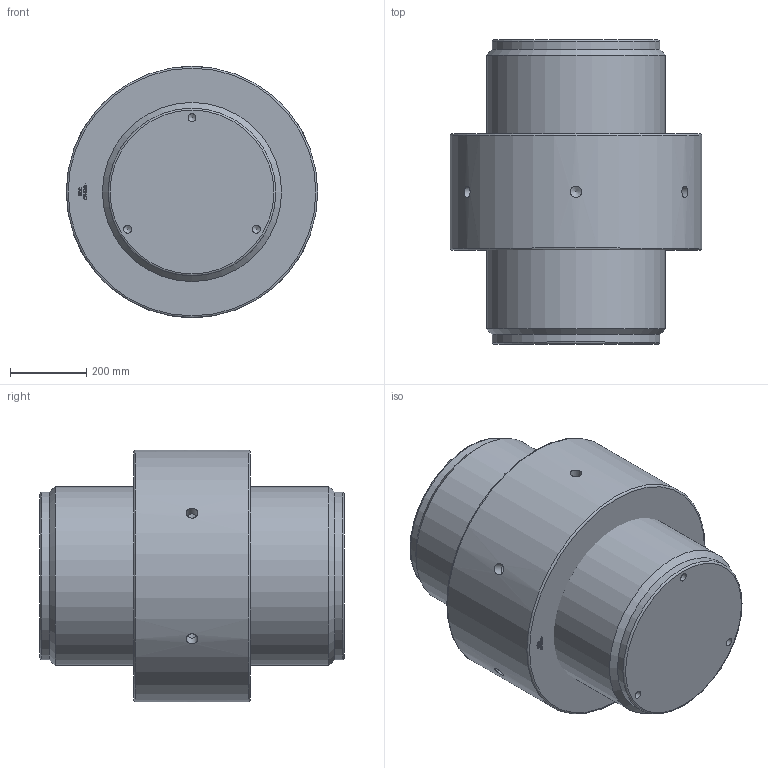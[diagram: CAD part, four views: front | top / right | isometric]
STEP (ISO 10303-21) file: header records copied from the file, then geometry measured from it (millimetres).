
FILE_DESCRIPTION(/* description */ (''),/* implementation_level */ '2;1');
FILE_NAME(/* name */ 'F:\Clienti LS\Redaelli\CYT\CYT\ARRNGEMENT\CYT152 61 061 0.stp',/* time_stamp */ '2021-05-09T09:01:19+02:00',/* author */ ('ranca'),/* organization */ (''),/* preprocessor_version */ 'ST-DEVELOPER v16.13',/* originating_system */ 'Autodesk Inventor 2018',/* authorisation */ '');
FILE_SCHEMA (('AUTOMOTIVE_DESIGN { 1 0 10303 214 3 1 1 }'));
Length unit declared in the file: millimetre
Products named in the file (3): CYT012-61-061-0; CYT012-61-061-0_1; CYT012-61-061-0_DADO
Assembly tree (2 placements, depth 2):
  CYT012-61-061-0
    CYT012-61-061-0_1
    CYT012-61-061-0_DADO
Bounding box: 660 x 798 x 660 mm (x, y, z)
Volume: 189694649.2 mm3; surface area: 2931964.6 mm2
Topology: 2 solids, 2 shells, 348 faces, 962 edges, 640 vertices
Faces by surface type: bspline 174, plane 145, cylinder 14, cone 11, torus 4
Full cylindrical faces by diameter (mm): 20.752 x3, 30 x6, 440 x2, 463.505 x1, 470 x1, 660 x1
Entity records: 11928 total; most frequent: CARTESIAN_POINT 4366, ORIENTED_EDGE 1834, DIRECTION 941, EDGE_CURVE 917, VERTEX_POINT 624, LINE 531, VECTOR 531, EDGE_LOOP 401
